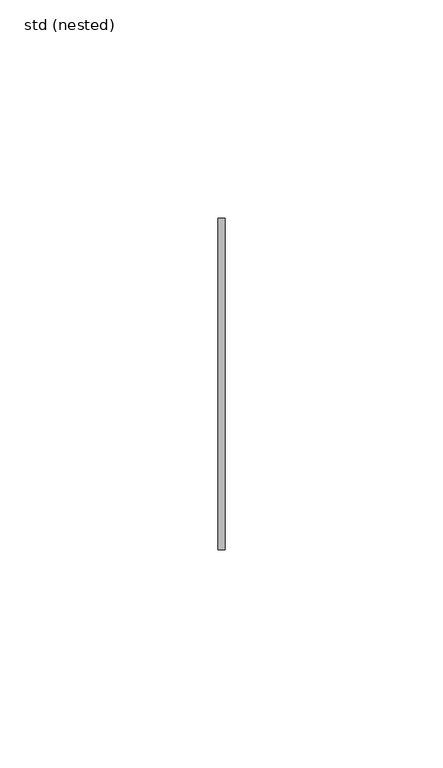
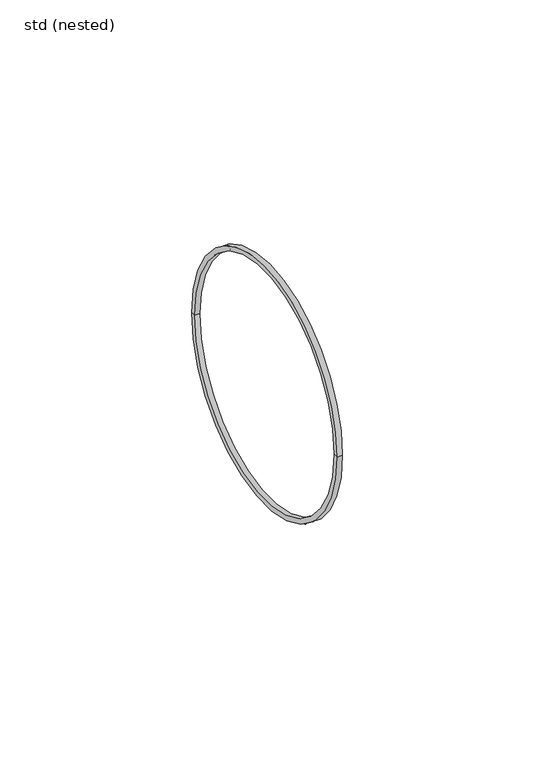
"""IFC4 building model written with IfcOpenShell, lengths in millimetres: pipe fitting geometry, ZZZ_do not use_PIF_ST_UN_GM-X seal non transitional_ACO : std (nested)."""

from ifc_helpers import new_model, si_unit, frame, origin, place, context, project, spatial, polyline, circle_curve, source, transform, mapped, element, save
from ifc_brep_helpers import plane_surface, cylinder_surface, revolved_surface, advanced_brep


def std_nested_83654513(model_context):
    return source(origin(), model_context, "Body", "AdvancedBrep", [
        advanced_brep(
        [(0.0, -38.0, 0.0), (0.0, 38.0, 0.0), (1.6, 38.0, 0.0), (1.6, -38.0, 0.0), (0.0, -36.5, 0.0), (0.0, 36.5, 0.0), (1.6, -36.5, 0.0), (1.6, 36.5, 0.0)],
        [
            (0, 1, circle_curve(frame((0.0, 0.0, 0.0), z_axis=(1.0, 0.0, 0.0), x_axis=(0.0, 1.0, 0.0)), 38.0)),
            (1, 2),
            (2, 3, circle_curve(frame((1.6, 0.0, 0.0), z_axis=(-1.0, 0.0, 0.0), x_axis=(0.0, 1.0, 0.0)), 38.0)),
            (3, 0),
            (1, 0, circle_curve(frame((0.0, 0.0, 0.0), z_axis=(1.0, 0.0, 0.0), x_axis=(0.0, 1.0, 0.0)), 38.0)),
            (3, 2, circle_curve(frame((1.6, 0.0, 0.0), z_axis=(-1.0, 0.0, 0.0), x_axis=(0.0, 1.0, 0.0)), 38.0)),
            (4, 5, circle_curve(frame((0.0, 0.0, 0.0), z_axis=(1.0, 0.0, 0.0), x_axis=(0.0, 1.0, 0.0)), 36.5)),
            (5, 1),
            (0, 4),
            (5, 4, circle_curve(frame((0.0, 0.0, 0.0), z_axis=(1.0, 0.0, 0.0), x_axis=(0.0, 1.0, 0.0)), 36.5)),
            (6, 7, circle_curve(frame((1.6, 0.0, 0.0), z_axis=(1.0, 0.0, 0.0), x_axis=(0.0, 1.0, 0.0)), 36.5)),
            (7, 5),
            (4, 6),
            (7, 6, circle_curve(frame((1.6, 0.0, 0.0), z_axis=(1.0, 0.0, 0.0), x_axis=(0.0, 1.0, 0.0)), 36.5)),
            (2, 7),
            (6, 3),
        ],
        [
            cylinder_surface(frame((-0.8180655, 0.0, 0.0), z_axis=(-1.0, 0.0, 0.0), x_axis=(0.0, 1.0, 0.0)), 38.0),
            plane_surface(frame((0.0, 0.0, 0.0), z_axis=(-1.0, 0.0, 0.0), x_axis=(0.0, 1.0, 0.0))),
            revolved_surface(polyline([(0.0, 36.5, 0.0), (1.6, 36.5, 0.0)]), (-0.8180655, 0.0, 0.0), (-1.0, 0.0, 0.0)),
            plane_surface(frame((1.6, 0.0, 0.0), z_axis=(1.0, 0.0, 0.0), x_axis=(0.0, 1.0, 0.0))),
        ],
        [
            (0, [[1, 2, 3, 4]]),
            (0, [[5, -4, 6, -2]]),
            (1, [[7, 8, -1, 9]]),
            (1, [[10, -9, -5, -8]]),
            (2, [[11, 12, -7, 13]]),
            (2, [[14, -13, -10, -12]]),
            (3, [[-3, 15, -11, 16]]),
            (3, [[-6, -16, -14, -15]]),
        ],
    ),
    ])


if __name__ == "__main__":
    model = new_model("IFC4")
    model_context = context("Model", 3, world=origin())
    ifc_project = project(units=[si_unit("LENGTHUNIT", "METRE", prefix="MILLI")], contexts=[model_context])
    site = spatial("IfcSite", under=ifc_project)
    building = spatial("IfcBuilding", under=site)
    placement = place(None, origin())
    std_nested_shape = std_nested_83654513(model_context)
    element("IfcPipeFitting", 1, ObjectType="ZZZ_do not use_PIF_ST_UN_GM-X seal non transitional_ACO : std (nested)", at=placement, inside=building, context=model_context, shape_type="MappedRepresentation", body=[
        mapped(std_nested_shape, transform((0.0, 0.0, 0.0), x_axis=(1.0, 0.0, 0.0), y_axis=(0.0, 1.0, 0.0), z_axis=(0.0, 0.0, 1.0))),
    ])
    save(model, "model.ifc")
